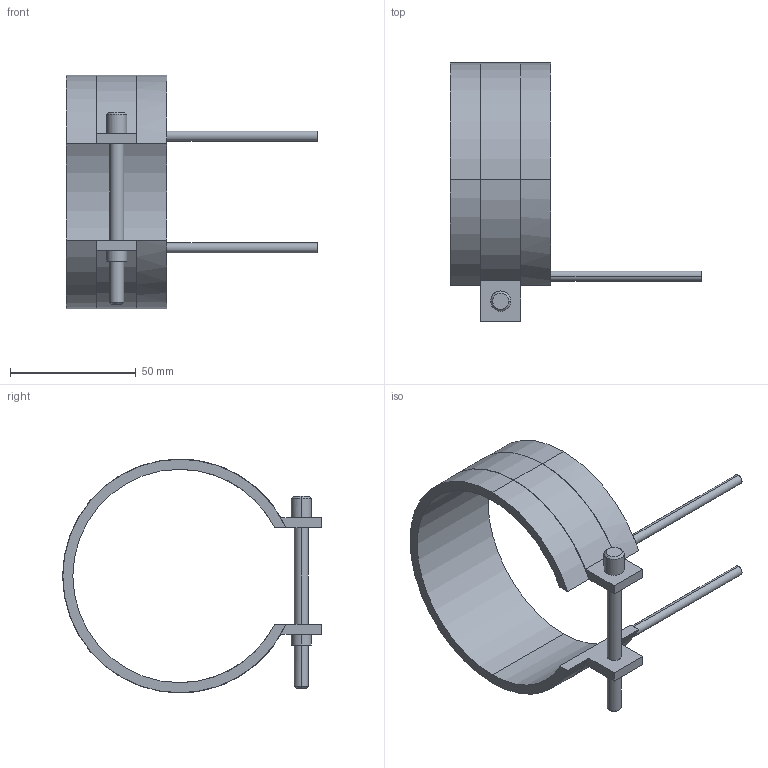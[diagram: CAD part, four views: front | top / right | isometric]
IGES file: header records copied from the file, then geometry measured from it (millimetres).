
Start section: START RECORD GO HERE.
Global section: file name: 14085040.igs; native system: DASSAULT SYSTEMES CATIA V5 R20 - www.3ds.com; preprocessor: CATIA Version 5 Release 20 ; author: Utente; organization: NB04-ASUS; date: 20210406.181643; units: millimetre
Bounding box: 100 x 103.1 x 93.2 mm (x, y, z)
Surface area: 25461 mm2 (no closed solid volume)
Topology: 0 solids, 0 shells, 45 faces, 232 edges, 232 vertices
Faces by surface type: revolution 28, plane 17
